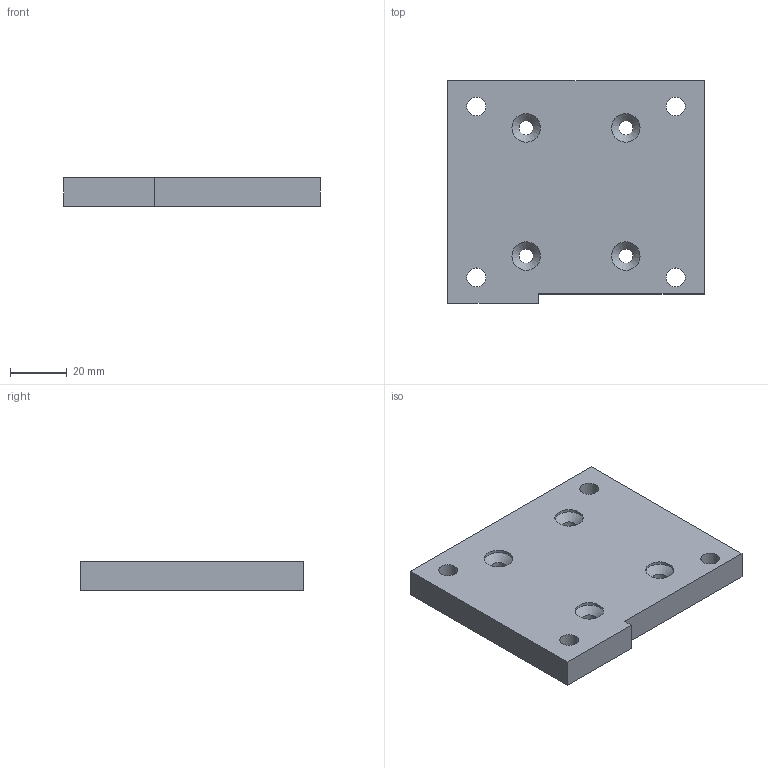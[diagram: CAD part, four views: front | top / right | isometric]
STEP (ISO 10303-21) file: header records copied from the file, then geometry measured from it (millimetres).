
FILE_DESCRIPTION(('STEP AP203'), '1');
FILE_NAME('ÊÀÐØÊ03.00.00.02 - Ïëàñòèíà', '', ('UNSPECIFIED'), ('UNSPECIFIED'), 'C3D Converter', 'C3D Toolkit', '');
FILE_SCHEMA(('CONFIG_CONTROL_DESIGN'));
Length unit declared in the file: millimetre
Products named in the file (1): КАРШК03.00.00.02
Bounding box: 90 x 78 x 10 mm (x, y, z)
Volume: 65666.8 mm3; surface area: 18059.8 mm2
Topology: 1 solids, 1 shells, 24 faces, 78 edges, 60 vertices
Faces by surface type: cylinder 12, plane 8, cone 4
Full cylindrical faces by diameter (mm): 5 x4, 6.647 x4, 10 x4
Entity records: 2377 total; most frequent: CARTESIAN_POINT 1615, DIRECTION 148, ORIENTED_EDGE 84, AXIS2_PLACEMENT_3D 65, EDGE_LOOP 56, EDGE_CURVE 42, CIRCLE 40, VERTEX_POINT 36
